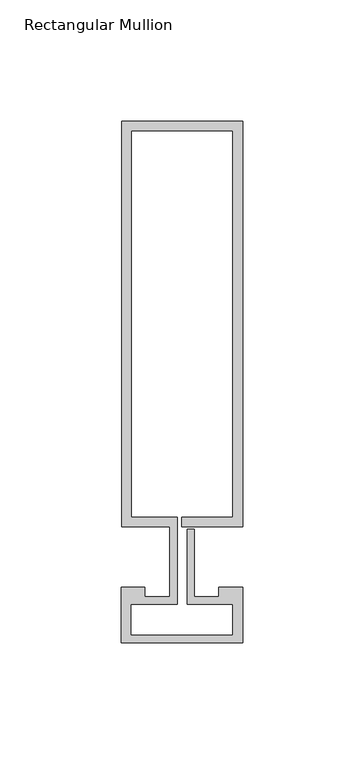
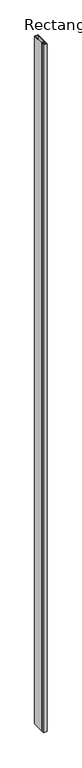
"""IFC4 building model written with IfcOpenShell, lengths in millimetres: member geometry, Rectangular Mullion : Reynaers_CW-50_Mullion-Transom_Vertical_167.5mm_Facecap-02C."""

from ifc_helpers import new_model, si_unit, frame, origin, place, context, project, spatial, polyline, outline, extrude, source, transform, mapped, element, save


def rectangular_mullion_a5cadd81(model_context):
    return source(origin(), model_context, "Body", "SweptSolid", [
        extrude(outline(polyline([(-24.8004059, 180.0), (25.1995941, 180.0), (25.1995941, 12.5), (0.0, 12.5), (0.0, 16.5), (21.1995941, 16.5), (21.1995941, 176.0), (-20.8004059, 176.0), (-20.8004059, 16.5), (-1.9004059, 16.5), (-1.9004059, -19.5), (-20.994845, -19.5), (-20.994845, -32.2191338), (21.1995941, -32.2191338), (21.1995941, -19.5), (2.2995941, -19.5), (2.2995941, 11.5), (5.2995941, 11.5), (5.2995941, -16.5), (15.2996495, -16.5), (15.2996495, -12.5), (25.1995941, -12.5), (25.1995941, -35.3), (-24.994845, -35.3), (-24.994845, -12.5), (-15.2996495, -12.5), (-15.2996495, -16.5), (-4.9004059, -16.5), (-4.9004059, 12.5), (-24.8004059, 12.5), (-24.8004059, 180.0)])), frame((0.0, 0.0, -10400.0), z_axis=(0.0, 0.0, 1.0), x_axis=(1.0, 0.0, 0.0)), (0.0, 0.0, 1.0), 10400.0),
    ])


if __name__ == "__main__":
    model = new_model("IFC4")
    model_context = context("Model", 3, world=origin())
    ifc_project = project(units=[si_unit("LENGTHUNIT", "METRE", prefix="MILLI")], contexts=[model_context])
    site = spatial("IfcSite", under=ifc_project)
    building = spatial("IfcBuilding", under=site)
    placement = place(None, origin())
    rectangular_mullion_shape = rectangular_mullion_a5cadd81(model_context)
    element("IfcMember", 1, ObjectType="Rectangular Mullion : Reynaers_CW-50_Mullion-Transom_Vertical_167.5mm_Facecap-02C", at=placement, inside=building, context=model_context, shape_type="MappedRepresentation", body=[
        mapped(rectangular_mullion_shape, transform((0.0, 0.0, 0.0), x_axis=(1.0, 0.0, 0.0), y_axis=(0.0, 1.0, 0.0), z_axis=(0.0, 0.0, 1.0))),
    ])
    save(model, "model.ifc")
